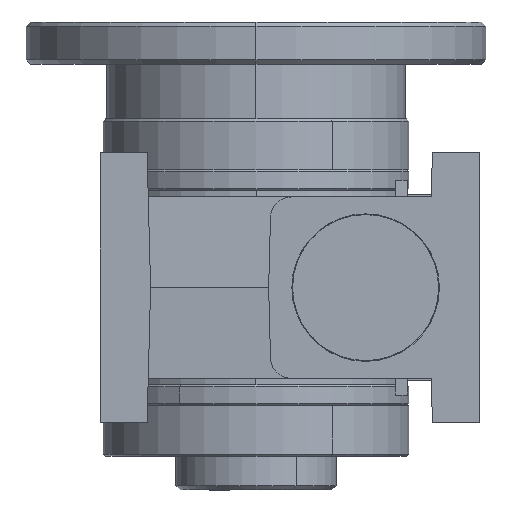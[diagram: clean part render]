
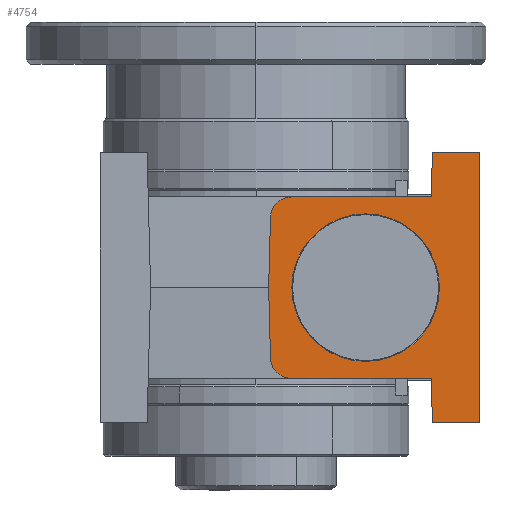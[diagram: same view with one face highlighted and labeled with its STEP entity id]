
A CAD part, left-side view. The second image highlights one B-rep face of the part: STEP entity #4754.
In plain terms, the highlighted planar face has unit normal (-1, 0, 0).
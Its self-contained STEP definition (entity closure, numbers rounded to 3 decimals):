
#159 = EDGE_CURVE ( 'NONE', #18468, #12646, #26330, .T. ) ;
#627 = CARTESIAN_POINT ( 'NONE',  ( -37., -26., 0. ) ) ;
#644 = EDGE_CURVE ( 'NONE', #12646, #5216, #21219, .T. ) ;
#967 = ORIENTED_EDGE ( 'NONE', *, *, #11460, .T. ) ;
#1383 = CARTESIAN_POINT ( 'NONE',  ( -37., -53., 21.5 ) ) ;
#1423 = ORIENTED_EDGE ( 'NONE', *, *, #21237, .F. ) ;
#1585 = CARTESIAN_POINT ( 'NONE',  ( -37., -8.434, 21.5 ) ) ;
#1780 = DIRECTION ( 'NONE',  ( 0., 0.026, 1. ) ) ;
#1861 = LINE ( 'NONE', #1383, #30239 ) ;
#2228 = ORIENTED_EDGE ( 'NONE', *, *, #3095, .F. ) ;
#2424 = VECTOR ( 'NONE', #1780, 1000. ) ;
#2502 = DIRECTION ( 'NONE',  ( 0., 1., 0. ) ) ;
#2659 = DIRECTION ( 'NONE',  ( 0., 1., 0. ) ) ;
#2726 = DIRECTION ( 'NONE',  ( 1., 0., 0. ) ) ;
#2774 = VERTEX_POINT ( 'NONE', #19481 ) ;
#3095 = EDGE_CURVE ( 'NONE', #11569, #3434, #6468, .T. ) ;
#3434 = VERTEX_POINT ( 'NONE', #27969 ) ;
#3535 = AXIS2_PLACEMENT_3D ( 'NONE', #627, #2726, #17799 ) ;
#4363 = CARTESIAN_POINT ( 'NONE',  ( -37., -3., 0. ) ) ;
#4393 = CARTESIAN_POINT ( 'NONE',  ( -37., -41.838, 32. ) ) ;
#4535 = VERTEX_POINT ( 'NONE', #4393 ) ;
#4660 = CARTESIAN_POINT ( 'NONE',  ( -37., -3., 0. ) ) ;
#4754 = ADVANCED_FACE ( 'NONE', ( #25999, #16702 ), #11438, .F. ) ;
#5216 = VERTEX_POINT ( 'NONE', #1585 ) ;
#5577 = EDGE_CURVE ( 'NONE', #5216, #10110, #1861, .T. ) ;
#5654 = DIRECTION ( 'NONE',  ( 0., -0.026, -1. ) ) ;
#5851 = VECTOR ( 'NONE', #11280, 1000. ) ;
#5972 = LINE ( 'NONE', #10958, #30170 ) ;
#6468 = LINE ( 'NONE', #16250, #26937 ) ;
#6674 = CARTESIAN_POINT ( 'NONE',  ( -37., -41., 0. ) ) ;
#6854 = CARTESIAN_POINT ( 'NONE',  ( -37., -26., 0. ) ) ;
#7359 = CARTESIAN_POINT ( 'NONE',  ( -37., -3.435, -16.631 ) ) ;
#7863 = AXIS2_PLACEMENT_3D ( 'NONE', #27851, #22218, #2659 ) ;
#8615 = CARTESIAN_POINT ( 'NONE',  ( -37., -8.5, 0. ) ) ;
#9013 = LINE ( 'NONE', #12055, #2424 ) ;
#9333 = DIRECTION ( 'NONE',  ( 0., 1., 0. ) ) ;
#9375 = VERTEX_POINT ( 'NONE', #8615 ) ;
#10102 = DIRECTION ( 'NONE',  ( 0., 1., 0. ) ) ;
#10110 = VERTEX_POINT ( 'NONE', #16361 ) ;
#10167 = ORIENTED_EDGE ( 'NONE', *, *, #20411, .F. ) ;
#10406 = VERTEX_POINT ( 'NONE', #29994 ) ;
#10912 = CARTESIAN_POINT ( 'NONE',  ( -37., -43.5, 0. ) ) ;
#10958 = CARTESIAN_POINT ( 'NONE',  ( -37., -41., 0. ) ) ;
#11280 = DIRECTION ( 'NONE',  ( 0., -0.026, 1. ) ) ;
#11438 = PLANE ( 'NONE',  #21459 ) ;
#11460 = EDGE_CURVE ( 'NONE', #11569, #10406, #5972, .T. ) ;
#11509 = VERTEX_POINT ( 'NONE', #7359 ) ;
#11569 = VERTEX_POINT ( 'NONE', #29179 ) ;
#11729 = LINE ( 'NONE', #19256, #31136 ) ;
#12055 = CARTESIAN_POINT ( 'NONE',  ( -37., -3.435, -16.631 ) ) ;
#12646 = VERTEX_POINT ( 'NONE', #27447 ) ;
#12799 = DIRECTION ( 'NONE',  ( 0., 1., 0. ) ) ;
#12960 = ORIENTED_EDGE ( 'NONE', *, *, #14732, .T. ) ;
#13350 = ORIENTED_EDGE ( 'NONE', *, *, #21790, .F. ) ;
#13775 = CIRCLE ( 'NONE', #3535, 17.5 ) ;
#13793 = CARTESIAN_POINT ( 'NONE',  ( -37., -8.434, 16.5 ) ) ;
#14287 = ORIENTED_EDGE ( 'NONE', *, *, #24144, .T. ) ;
#14464 = DIRECTION ( 'NONE',  ( 1., 0., 0. ) ) ;
#14528 = ORIENTED_EDGE ( 'NONE', *, *, #20104, .T. ) ;
#14732 = EDGE_CURVE ( 'NONE', #9375, #21400, #16540, .T. ) ;
#15375 = ORIENTED_EDGE ( 'NONE', *, *, #21218, .T. ) ;
#16057 = DIRECTION ( 'NONE',  ( 1., 0., 0. ) ) ;
#16250 = CARTESIAN_POINT ( 'NONE',  ( -37., -53., -21.5 ) ) ;
#16331 = DIRECTION ( 'NONE',  ( 0., 0., -1. ) ) ;
#16361 = CARTESIAN_POINT ( 'NONE',  ( -37., -41.563, 21.5 ) ) ;
#16540 = CIRCLE ( 'NONE', #28369, 17.5 ) ;
#16702 = FACE_OUTER_BOUND ( 'NONE', #23280, .T. ) ;
#17220 = ORIENTED_EDGE ( 'NONE', *, *, #644, .F. ) ;
#17459 = CARTESIAN_POINT ( 'NONE',  ( -37., -55., 32. ) ) ;
#17799 = DIRECTION ( 'NONE',  ( 0., 1., 0. ) ) ;
#18468 = VERTEX_POINT ( 'NONE', #4660 ) ;
#19056 = CARTESIAN_POINT ( 'NONE',  ( -37., -53., 32. ) ) ;
#19256 = CARTESIAN_POINT ( 'NONE',  ( -37., 37., -32. ) ) ;
#19481 = CARTESIAN_POINT ( 'NONE',  ( -37., -53., 32. ) ) ;
#19692 = ORIENTED_EDGE ( 'NONE', *, *, #159, .F. ) ;
#20104 = EDGE_CURVE ( 'NONE', #2774, #4535, #27237, .T. ) ;
#20411 = EDGE_CURVE ( 'NONE', #10110, #4535, #23962, .T. ) ;
#21218 = EDGE_CURVE ( 'NONE', #10406, #26008, #11729, .T. ) ;
#21219 = CIRCLE ( 'NONE', #26317, 5. ) ;
#21237 = EDGE_CURVE ( 'NONE', #11509, #18468, #9013, .T. ) ;
#21396 = VECTOR ( 'NONE', #31226, 1000. ) ;
#21400 = VERTEX_POINT ( 'NONE', #10912 ) ;
#21459 = AXIS2_PLACEMENT_3D ( 'NONE', #21503, #14464, #9333 ) ;
#21503 = CARTESIAN_POINT ( 'NONE',  ( -37., 37., 32. ) ) ;
#21603 = LINE ( 'NONE', #19056, #27613 ) ;
#21790 = EDGE_CURVE ( 'NONE', #3434, #11509, #27333, .T. ) ;
#22218 = DIRECTION ( 'NONE',  ( 1., 0., 0. ) ) ;
#23280 = EDGE_LOOP ( 'NONE', ( #10167, #27263, #17220, #19692, #1423, #13350, #2228, #967, #15375, #25772, #14528 ) ) ;
#23962 = LINE ( 'NONE', #6674, #21396 ) ;
#23985 = EDGE_LOOP ( 'NONE', ( #12960, #14287 ) ) ;
#24144 = EDGE_CURVE ( 'NONE', #21400, #9375, #13775, .T. ) ;
#24348 = EDGE_CURVE ( 'NONE', #2774, #26008, #21603, .T. ) ;
#25772 = ORIENTED_EDGE ( 'NONE', *, *, #24348, .F. ) ;
#25999 = FACE_BOUND ( 'NONE', #23985, .T. ) ;
#26008 = VERTEX_POINT ( 'NONE', #26066 ) ;
#26066 = CARTESIAN_POINT ( 'NONE',  ( -37., -53., -32. ) ) ;
#26153 = DIRECTION ( 'NONE',  ( 0., -1., 0. ) ) ;
#26317 = AXIS2_PLACEMENT_3D ( 'NONE', #13793, #16057, #31121 ) ;
#26330 = LINE ( 'NONE', #4363, #5851 ) ;
#26501 = VECTOR ( 'NONE', #12799, 1000. ) ;
#26937 = VECTOR ( 'NONE', #10102, 1000. ) ;
#27237 = LINE ( 'NONE', #17459, #26501 ) ;
#27263 = ORIENTED_EDGE ( 'NONE', *, *, #5577, .F. ) ;
#27333 = CIRCLE ( 'NONE', #7863, 5. ) ;
#27447 = CARTESIAN_POINT ( 'NONE',  ( -37., -3.435, 16.631 ) ) ;
#27613 = VECTOR ( 'NONE', #16331, 1000. ) ;
#27851 = CARTESIAN_POINT ( 'NONE',  ( -37., -8.434, -16.5 ) ) ;
#27969 = CARTESIAN_POINT ( 'NONE',  ( -37., -8.434, -21.5 ) ) ;
#28369 = AXIS2_PLACEMENT_3D ( 'NONE', #6854, #29471, #2502 ) ;
#29179 = CARTESIAN_POINT ( 'NONE',  ( -37., -41.563, -21.5 ) ) ;
#29471 = DIRECTION ( 'NONE',  ( 1., 0., 0. ) ) ;
#29994 = CARTESIAN_POINT ( 'NONE',  ( -37., -41.838, -32. ) ) ;
#30170 = VECTOR ( 'NONE', #5654, 1000. ) ;
#30239 = VECTOR ( 'NONE', #30769, 1000. ) ;
#30769 = DIRECTION ( 'NONE',  ( 0., -1., 0. ) ) ;
#31121 = DIRECTION ( 'NONE',  ( 0., -1., 0. ) ) ;
#31136 = VECTOR ( 'NONE', #26153, 1000. ) ;
#31226 = DIRECTION ( 'NONE',  ( 0., -0.026, 1. ) ) ;
